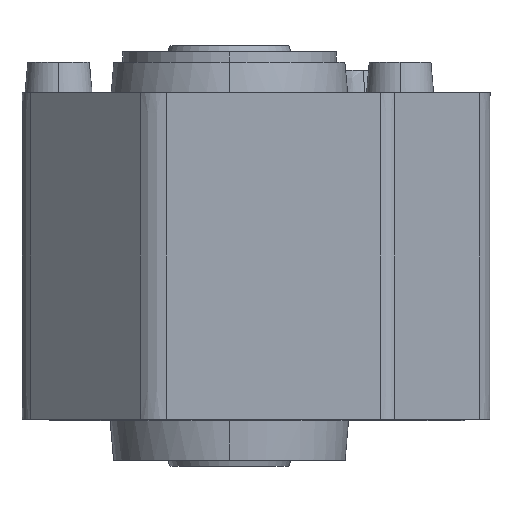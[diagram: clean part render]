
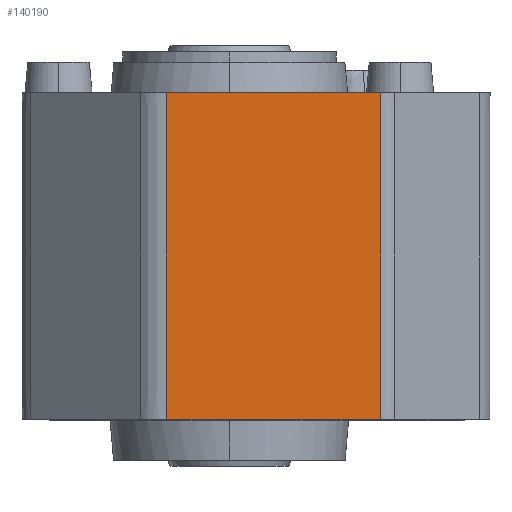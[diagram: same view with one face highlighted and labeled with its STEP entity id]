
A CAD part, left-side view. The second image highlights one B-rep face of the part: STEP entity #140190.
In plain terms, the highlighted planar face has unit normal (-1, 0, 0) as drawn and (0, 1, -0.026) by its records, which use the part's own axes.
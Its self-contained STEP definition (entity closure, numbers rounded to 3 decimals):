
#36330=CARTESIAN_POINT('',(-10.5,753.685,
-126.569));
#36340=VERTEX_POINT('',#36330);
#36370=CARTESIAN_POINT('',(-10.5,753.862,
-119.799));
#36380=DIRECTION('',(0.,-0.026,
-1.));
#36390=VECTOR('',#36380,1.);
#36400=LINE('',#36370,#36390);
#36410=CARTESIAN_POINT('',(-10.5,751.841,
-197.));
#36420=VERTEX_POINT('',#36410);
#36430=EDGE_CURVE('',#36340,#36420,#36400,.T.);
#113780=CARTESIAN_POINT('',(-117.5,751.841,
-197.));
#113790=VERTEX_POINT('',#113780);
#113820=CARTESIAN_POINT('',(-117.5,753.862,
-119.799));
#113830=DIRECTION('',(0.,-0.026,
-1.));
#113840=VECTOR('',#113830,1.);
#113850=LINE('',#113820,#113840);
#113860=CARTESIAN_POINT('',(-117.5,753.685,
-126.569));
#113870=VERTEX_POINT('',#113860);
#113880=EDGE_CURVE('',#113870,#113790,#113850,.T.);
#138550=CARTESIAN_POINT('',(-129.5,753.685,
-126.569));
#138560=CARTESIAN_POINT('',(-123.292,753.685,
-126.569));
#138570=CARTESIAN_POINT('',(-116.642,753.685,
-126.569));
#138580=CARTESIAN_POINT('',(-109.55,753.685,
-126.569));
#138590=CARTESIAN_POINT('',(-108.225,753.685,
-126.569));
#138600=CARTESIAN_POINT('',(-102.042,753.685,
-126.569));
#138610=CARTESIAN_POINT('',(-96.3,753.685,
-126.569));
#138620=CARTESIAN_POINT('',(-89.565,753.685,
-126.569));
#138630=CARTESIAN_POINT('',(-81.394,753.685,
-126.569));
#138640=CARTESIAN_POINT('',(-73.002,753.685,
-126.569));
#138650=CARTESIAN_POINT('',(-65.825,753.685,
-126.569));
#138660=CARTESIAN_POINT('',(-65.162,753.685,
-126.569));
#138670=CARTESIAN_POINT('',(-64.721,753.685,
-126.569));
#138680=CARTESIAN_POINT('',(-63.86,753.685,
-126.569));
#138690=CARTESIAN_POINT('',(-63.221,753.685,
-126.569));
#138700=CARTESIAN_POINT('',(-62.471,753.685,
-126.569));
#138710=CARTESIAN_POINT('',(-62.152,753.685,
-126.569));
#138720=CARTESIAN_POINT('',(-55.77,753.685,
-126.569));
#138730=CARTESIAN_POINT('',(-49.283,753.685,
-126.569));
#138740=CARTESIAN_POINT('',(-42.791,753.685,
-126.569));
#138750=CARTESIAN_POINT('',(-36.246,753.685,
-126.569));
#138760=CARTESIAN_POINT('',(-29.882,753.685,
-126.569));
#138770=CARTESIAN_POINT('',(-23.667,753.685,
-126.569));
#138780=CARTESIAN_POINT('',(-23.237,753.685,
-126.569));
#138790=CARTESIAN_POINT('',(-22.412,753.685,
-126.569));
#138800=CARTESIAN_POINT('',(-21.225,753.685,
-126.569));
#138810=CARTESIAN_POINT('',(-0.721,753.685,
-126.569));
#138820=CARTESIAN_POINT('',(19.354,753.685,
-126.569));
#138830=CARTESIAN_POINT('',(39.,753.685,
-126.569));
#138840=(BOUNDED_CURVE() B_SPLINE_CURVE(3,(#138550,#138560,#138570,
#138580,#138590,#138600,#138610,#138620,#138630,#138640,#138650,#138660,
#138670,#138680,#138690,#138700,#138710,#138720,#138730,#138740,#138750,
#138760,#138770,#138780,#138790,#138800,#138810,#138820,#138830),
.UNSPECIFIED.,.F.,.F.) B_SPLINE_CURVE_WITH_KNOTS((4,1,1,1,1,2,1,1,1,1,2,
2,1,1,1,1,1,1,1,1,1,1,1,4),(215.828,234.453,
235.778,237.103,238.428,254.328,
258.635,278.841,279.503,280.166,
280.828,282.747,283.078,283.703,
301.894,302.538,303.182,321.528,
321.628,321.828,322.816,324.103,
325.391,384.328),.UNSPECIFIED.) CURVE() 
GEOMETRIC_REPRESENTATION_ITEM() RATIONAL_B_SPLINE_CURVE((1.,1.,1.,1.,1.,
1.,1.,1.,1.,1.,1.,1.,1.,1.,1.,1.,1.,1.,1.,1.,1.,1.,1.,1.,1.,1.,1.,1.,1.)
) REPRESENTATION_ITEM(''));
#138850=EDGE_CURVE('',#113870,#36340,#138840,.T.);
#139290=CARTESIAN_POINT('',(-123.5,751.841,
-197.));
#139300=CARTESIAN_POINT('',(-119.283,751.841,
-197.));
#139310=CARTESIAN_POINT('',(-114.623,751.841,
-197.));
#139320=CARTESIAN_POINT('',(-109.52,751.841,
-197.));
#139330=CARTESIAN_POINT('',(-108.19,751.841,
-197.));
#139340=CARTESIAN_POINT('',(-101.983,751.841,
-197.));
#139350=CARTESIAN_POINT('',(-96.22,751.841,
-197.));
#139360=CARTESIAN_POINT('',(-89.459,751.841,
-197.));
#139370=CARTESIAN_POINT('',(-81.257,751.841,
-197.));
#139380=CARTESIAN_POINT('',(-72.834,751.841,
-197.));
#139390=CARTESIAN_POINT('',(-65.63,751.841,
-197.));
#139400=CARTESIAN_POINT('',(-64.965,751.841,
-197.));
#139410=CARTESIAN_POINT('',(-64.522,751.841,
-197.));
#139420=CARTESIAN_POINT('',(-63.954,751.841,
-197.));
#139430=CARTESIAN_POINT('',(-63.607,751.841,
-197.));
#139440=CARTESIAN_POINT('',(-62.989,751.841,
-197.));
#139450=CARTESIAN_POINT('',(-62.508,751.841,
-197.));
#139460=CARTESIAN_POINT('',(-55.958,751.841,
-197.));
#139470=CARTESIAN_POINT('',(-49.444,751.841,
-197.));
#139480=CARTESIAN_POINT('',(-42.924,751.841,
-197.));
#139490=CARTESIAN_POINT('',(-36.374,751.841,
-197.));
#139500=CARTESIAN_POINT('',(-29.959,751.841,
-197.));
#139510=CARTESIAN_POINT('',(-23.389,751.841,
-197.));
#139520=CARTESIAN_POINT('',(-22.487,751.841,
-197.));
#139530=CARTESIAN_POINT('',(-21.255,751.841,
-197.));
#139540=CARTESIAN_POINT('',(-0.806,751.841,
-197.));
#139550=CARTESIAN_POINT('',(19.213,751.841,
-197.));
#139560=CARTESIAN_POINT('',(38.8,751.841,
-197.));
#139570=(BOUNDED_CURVE() B_SPLINE_CURVE(3,(#139290,#139300,#139310,
#139320,#139330,#139340,#139350,#139360,#139370,#139380,#139390,#139400,
#139410,#139420,#139430,#139440,#139450,#139460,#139470,#139480,#139490,
#139500,#139510,#139520,#139530,#139540,#139550,#139560),.UNSPECIFIED.,
.F.,.F.) B_SPLINE_CURVE_WITH_KNOTS((4,1,1,1,1,2,1,1,1,1,2,2,1,1,1,1,1,1,
1,1,1,1,4),(164.047,176.697,178.027,
179.357,180.687,196.647,200.969,
221.252,221.917,222.582,223.247,
224.286,225.102,225.729,243.936,
244.642,245.289,263.587,263.887,
264.999,266.292,267.584,326.347),
.UNSPECIFIED.) CURVE() GEOMETRIC_REPRESENTATION_ITEM() 
RATIONAL_B_SPLINE_CURVE((1.,1.,1.,1.,1.,1.,1.,1.,1.,1.,1.,1.,1.,1.,1.,1.
,1.,1.,1.,1.,1.,1.,1.,1.,1.,1.,1.,1.)) 
REPRESENTATION_ITEM(''));
#139580=EDGE_CURVE('',#113790,#36420,#139570,.T.);
#140080=CARTESIAN_POINT('',(-49.051,753.651,
-127.851));
#140090=DIRECTION('',(0.,-1.,
0.026));
#140100=DIRECTION('',(0.,0.026,
1.));
#140110=AXIS2_PLACEMENT_3D('',#140080,#140090,#140100);
#140120=PLANE('',#140110);
#140130=ORIENTED_EDGE('',*,*,#113880,.F.);
#140140=ORIENTED_EDGE('',*,*,#139580,.F.);
#140150=ORIENTED_EDGE('',*,*,#36430,.T.);
#140160=ORIENTED_EDGE('',*,*,#138850,.T.);
#140170=EDGE_LOOP('',(#140160,#140150,#140140,#140130));
#140180=FACE_OUTER_BOUND('',#140170,.T.);
#140190=ADVANCED_FACE('',(#140180),#140120,.F.);
